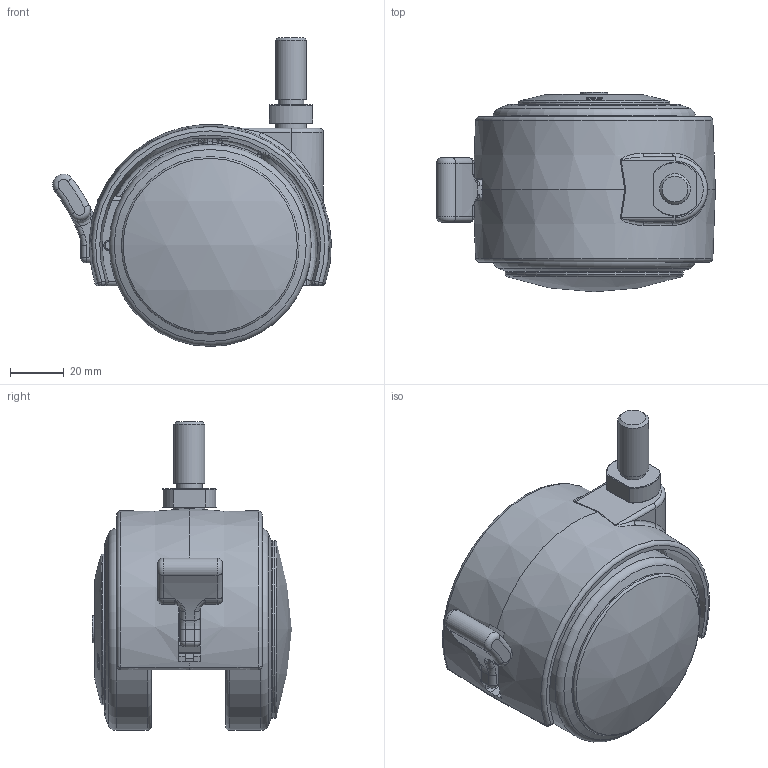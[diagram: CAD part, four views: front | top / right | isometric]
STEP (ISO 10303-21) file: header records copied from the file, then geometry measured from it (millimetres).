
FILE_DESCRIPTION((''),'2;1');
FILE_NAME('C:\Documents and Settings\Administrator\바탕 화면\3D STEP\GDD-SERIES\GDD-75B-SS\GDD-75B-SS.stp','2010-12-27T11:43:37',('Administrator'),(''),'Autodesk Inventor 2009','Autodesk Inventor 2009','');
FILE_SCHEMA(('AUTOMOTIVE_DESIGN { 1 0 10303 214 1 1 1 1 }'));
Length unit declared in the file: millimetre
Products named in the file (1): GDD-75B-SS
Bounding box: 103.49 x 74.08 x 114.7 mm (x, y, z)
Volume: 178832.8 mm3; surface area: 75657.1 mm2
Topology: 5 solids, 5 shells, 824 faces, 2088 edges, 1271 vertices
Faces by surface type: cylinder 305, plane 251, bspline 167, torus 59, sphere 26, cone 16
Full cylindrical faces by diameter (mm): 4 x3, 4.1 x1, 4.7 x1, 7.2 x1, 8 x1, 9 x1, 9.5 x1, 10 x2, 11.5 x3, 12 x3, 21.985 x1, 22 x3, 30 x2, 55 x1, 56 x1, 62 x2, 65 x3, 66 x1, 75 x2
Entity records: 33342 total; most frequent: CARTESIAN_POINT 14572, ORIENTED_EDGE 3920, DIRECTION 3881, EDGE_CURVE 1960, AXIS2_PLACEMENT_3D 1560, VERTEX_POINT 1242, EDGE_LOOP 936, CIRCLE 876
